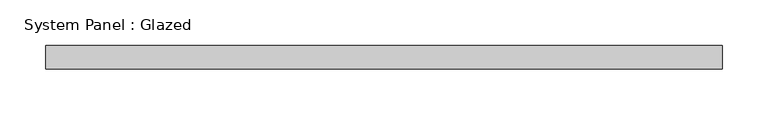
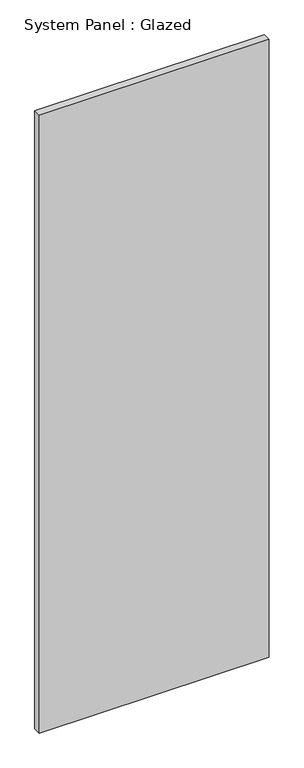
"""IFC4 building model written with IfcOpenShell, lengths in millimetres: plate geometry, System Panel : Glazed."""

from ifc_helpers import new_model, si_unit, origin, origin_with_axes, place, context, project, spatial, polyline, outline, extrude, source, transform, mapped, element, save


def system_panel_glazed_e012e687(model_context):
    return source(origin(), model_context, "Body", "SweptSolid", [
        extrude(outline(polyline([(368.5188475, 19.05), (-368.5188475, 19.05), (-368.5188475, 44.45), (368.5188475, 44.45), (368.5188475, 19.05)])), origin_with_axes(), (0.0, 0.0, 1.0), 2095.5),
    ])


if __name__ == "__main__":
    model = new_model("IFC4")
    model_context = context("Model", 3, world=origin())
    ifc_project = project(units=[si_unit("LENGTHUNIT", "METRE", prefix="MILLI")], contexts=[model_context])
    site = spatial("IfcSite", under=ifc_project)
    building = spatial("IfcBuilding", under=site)
    placement = place(None, origin())
    system_panel_glazed_shape = system_panel_glazed_e012e687(model_context)
    element("IfcPlate", 1, ObjectType="System Panel : Glazed", at=placement, inside=building, context=model_context, shape_type="MappedRepresentation", body=[
        mapped(system_panel_glazed_shape, transform((0.0, 0.0, 0.0), x_axis=(1.0, 0.0, 0.0), y_axis=(0.0, 1.0, 0.0), z_axis=(0.0, 0.0, 1.0))),
    ])
    save(model, "model.ifc")
